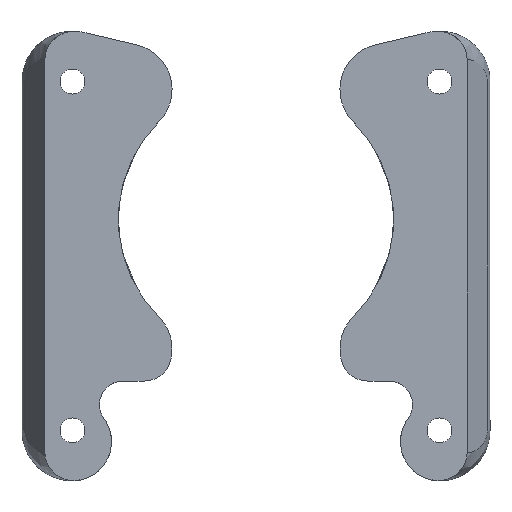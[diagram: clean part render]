
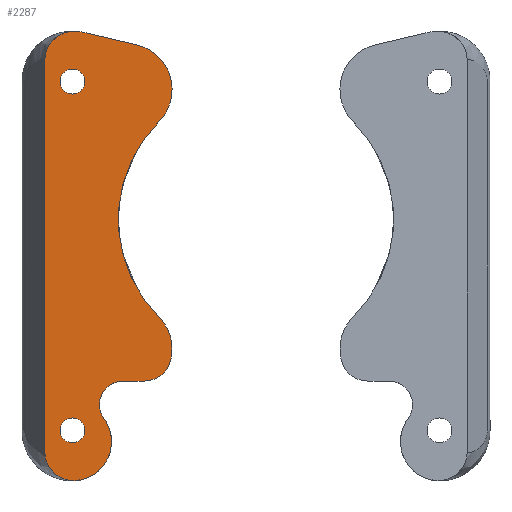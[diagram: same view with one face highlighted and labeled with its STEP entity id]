
A CAD part, left-side view. The second image highlights one B-rep face of the part: STEP entity #2287.
In plain terms, the highlighted planar face has unit normal (-1, 0, 0).
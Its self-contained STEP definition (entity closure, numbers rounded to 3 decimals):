
#24=B_SPLINE_CURVE_WITH_KNOTS('',3,(#3678,#3679,#3680,#3681,#3682,#3683,
#3684,#3685),.UNSPECIFIED.,.F.,.F.,(4,2,2,4),(0.,0.25,0.5,1.),
 .UNSPECIFIED.);
#26=B_SPLINE_CURVE_WITH_KNOTS('',3,(#3713,#3714,#3715,#3716,#3717,#3718,
#3719,#3720),.UNSPECIFIED.,.F.,.F.,(4,2,2,4),(0.,0.5,0.75,1.),
 .UNSPECIFIED.);
#126=LINE('',#3650,#318);
#131=LINE('',#3691,#323);
#137=LINE('',#3738,#329);
#318=VECTOR('',#2926,1000.);
#323=VECTOR('',#2939,1000.);
#329=VECTOR('',#2959,1000.);
#455=PLANE('',#2513);
#794=ORIENTED_EDGE('',*,*,#1285,.T.);
#795=ORIENTED_EDGE('',*,*,#1289,.T.);
#796=ORIENTED_EDGE('',*,*,#1292,.T.);
#797=ORIENTED_EDGE('',*,*,#1295,.T.);
#798=ORIENTED_EDGE('',*,*,#1298,.T.);
#799=ORIENTED_EDGE('',*,*,#1301,.T.);
#800=ORIENTED_EDGE('',*,*,#1304,.T.);
#801=ORIENTED_EDGE('',*,*,#1307,.T.);
#802=ORIENTED_EDGE('',*,*,#1310,.T.);
#803=ORIENTED_EDGE('',*,*,#1313,.T.);
#804=ORIENTED_EDGE('',*,*,#1316,.T.);
#805=ORIENTED_EDGE('',*,*,#1320,.T.);
#806=ORIENTED_EDGE('',*,*,#1317,.T.);
#807=ORIENTED_EDGE('',*,*,#1321,.T.);
#1285=EDGE_CURVE('',#1579,#1578,#1761,.T.);
#1289=EDGE_CURVE('',#1578,#1581,#1763,.T.);
#1292=EDGE_CURVE('',#1581,#1583,#1765,.T.);
#1295=EDGE_CURVE('',#1583,#1585,#126,.T.);
#1298=EDGE_CURVE('',#1585,#1587,#1767,.T.);
#1301=EDGE_CURVE('',#1587,#1589,#24,.T.);
#1304=EDGE_CURVE('',#1589,#1591,#131,.T.);
#1307=EDGE_CURVE('',#1591,#1593,#26,.T.);
#1310=EDGE_CURVE('',#1593,#1595,#1769,.T.);
#1313=EDGE_CURVE('',#1595,#1597,#1771,.T.);
#1316=EDGE_CURVE('',#1597,#1599,#137,.T.);
#1317=EDGE_CURVE('',#1600,#1600,#1772,.F.);
#1320=EDGE_CURVE('',#1599,#1579,#1775,.T.);
#1321=EDGE_CURVE('',#1602,#1602,#1776,.F.);
#1578=VERTEX_POINT('',#3629);
#1579=VERTEX_POINT('',#3631);
#1581=VERTEX_POINT('',#3637);
#1583=VERTEX_POINT('',#3643);
#1585=VERTEX_POINT('',#3649);
#1587=VERTEX_POINT('',#3655);
#1589=VERTEX_POINT('',#3677);
#1591=VERTEX_POINT('',#3690);
#1593=VERTEX_POINT('',#3712);
#1595=VERTEX_POINT('',#3725);
#1597=VERTEX_POINT('',#3731);
#1599=VERTEX_POINT('',#3737);
#1600=VERTEX_POINT('',#3741);
#1602=VERTEX_POINT('',#3749);
#1761=CIRCLE('',#2485,5.);
#1763=CIRCLE('',#2488,15.);
#1765=CIRCLE('',#2491,5.);
#1767=CIRCLE('',#2495,5.5);
#1769=CIRCLE('',#2499,4.257);
#1771=CIRCLE('',#2502,2.568);
#1772=CIRCLE('',#2505,1.35);
#1775=CIRCLE('',#2509,3.);
#1776=CIRCLE('',#2511,1.35);
#1915=EDGE_LOOP('',(#794,#795,#796,#797,#798,#799,#800,#801,#802,#803,#804,
#805));
#1916=EDGE_LOOP('',(#806));
#1917=EDGE_LOOP('',(#807));
#2081=FACE_BOUND('',#1915,.T.);
#2082=FACE_BOUND('',#1916,.T.);
#2083=FACE_BOUND('',#1917,.T.);
#2287=ADVANCED_FACE('',(#2081,#2082,#2083),#455,.T.);
#2485=AXIS2_PLACEMENT_3D('',#3630,#2905,#2906);
#2488=AXIS2_PLACEMENT_3D('',#3638,#2913,#2914);
#2491=AXIS2_PLACEMENT_3D('',#3644,#2920,#2921);
#2495=AXIS2_PLACEMENT_3D('',#3656,#2932,#2933);
#2499=AXIS2_PLACEMENT_3D('',#3726,#2946,#2947);
#2502=AXIS2_PLACEMENT_3D('',#3732,#2953,#2954);
#2505=AXIS2_PLACEMENT_3D('',#3740,#2962,#2963);
#2509=AXIS2_PLACEMENT_3D('',#3746,#2970,#2971);
#2511=AXIS2_PLACEMENT_3D('',#3748,#2974,#2975);
#2513=AXIS2_PLACEMENT_3D('',#3752,#2978,#2979);
#2905=DIRECTION('',(-1.,0.,0.));
#2906=DIRECTION('',(0.,0.,1.));
#2913=DIRECTION('',(1.,0.,0.));
#2914=DIRECTION('',(0.,0.,1.));
#2920=DIRECTION('',(-1.,0.,0.));
#2921=DIRECTION('',(0.,0.,1.));
#2926=DIRECTION('',(0.,0.974,0.228));
#2932=DIRECTION('',(-1.,0.,0.));
#2933=DIRECTION('',(0.,-1.,0.));
#2939=DIRECTION('',(0.,0.,-1.));
#2946=DIRECTION('',(-1.,0.,0.));
#2947=DIRECTION('',(0.,-1.,0.));
#2953=DIRECTION('',(1.,0.,0.));
#2954=DIRECTION('',(0.,-1.,0.));
#2959=DIRECTION('',(0.,-1.,0.));
#2962=DIRECTION('',(-1.,0.,0.));
#2963=DIRECTION('',(0.,0.,1.));
#2970=DIRECTION('',(-1.,0.,0.));
#2971=DIRECTION('',(0.,0.,1.));
#2974=DIRECTION('',(-1.,0.,0.));
#2975=DIRECTION('',(0.,0.,1.));
#2978=DIRECTION('',(-1.,0.,0.));
#2979=DIRECTION('',(0.,0.,1.));
#3629=CARTESIAN_POINT('',(-10.1,10.607,-10.607));
#3630=CARTESIAN_POINT('',(-10.1,14.142,-14.142));
#3631=CARTESIAN_POINT('',(-10.1,9.294,-15.366));
#3637=CARTESIAN_POINT('',(-10.1,10.607,10.607));
#3638=CARTESIAN_POINT('',(-10.1,0.,0.));
#3643=CARTESIAN_POINT('',(-10.1,13.002,19.011));
#3644=CARTESIAN_POINT('',(-10.1,14.142,14.142));
#3649=CARTESIAN_POINT('',(-10.1,18.746,20.355));
#3650=CARTESIAN_POINT('',(-10.1,13.002,19.011));
#3655=CARTESIAN_POINT('',(-10.1,19.221,20.445));
#3656=CARTESIAN_POINT('',(-10.1,20.,15.));
#3677=CARTESIAN_POINT('',(-10.1,23.,17.48));
#3678=CARTESIAN_POINT('',(-10.1,19.221,20.445));
#3679=CARTESIAN_POINT('',(-10.1,19.673,20.509));
#3680=CARTESIAN_POINT('',(-10.1,20.129,20.487));
#3681=CARTESIAN_POINT('',(-10.1,21.011,20.271));
#3682=CARTESIAN_POINT('',(-10.1,21.429,20.077));
#3683=CARTESIAN_POINT('',(-10.1,22.513,19.265));
#3684=CARTESIAN_POINT('',(-10.1,23.,18.396));
#3685=CARTESIAN_POINT('',(-10.1,23.,17.48));
#3690=CARTESIAN_POINT('',(-10.1,23.,-25.48));
#3691=CARTESIAN_POINT('',(-10.1,23.,17.48));
#3712=CARTESIAN_POINT('',(-10.1,19.551,-28.476));
#3713=CARTESIAN_POINT('',(-10.1,23.,-25.48));
#3714=CARTESIAN_POINT('',(-10.1,23.,-26.339));
#3715=CARTESIAN_POINT('',(-10.1,22.573,-27.16));
#3716=CARTESIAN_POINT('',(-10.1,21.594,-27.975));
#3717=CARTESIAN_POINT('',(-10.1,21.214,-28.181));
#3718=CARTESIAN_POINT('',(-10.1,20.401,-28.443));
#3719=CARTESIAN_POINT('',(-10.1,19.979,-28.497));
#3720=CARTESIAN_POINT('',(-10.1,19.551,-28.476));
#3725=CARTESIAN_POINT('',(-10.1,16.57,-21.721));
#3726=CARTESIAN_POINT('',(-10.1,20.,-24.243));
#3731=CARTESIAN_POINT('',(-10.1,14.5,-17.632));
#3732=CARTESIAN_POINT('',(-10.1,14.5,-20.2));
#3737=CARTESIAN_POINT('',(-10.1,12.203,-17.632));
#3738=CARTESIAN_POINT('',(-10.1,14.5,-17.632));
#3740=CARTESIAN_POINT('',(-10.1,20.,15.));
#3741=CARTESIAN_POINT('',(-10.1,20.,16.35));
#3746=CARTESIAN_POINT('',(-10.1,12.203,-14.632));
#3748=CARTESIAN_POINT('',(-10.1,20.,-23.));
#3749=CARTESIAN_POINT('',(-10.1,20.,-21.65));
#3752=CARTESIAN_POINT('',(-10.1,14.142,-14.142));
